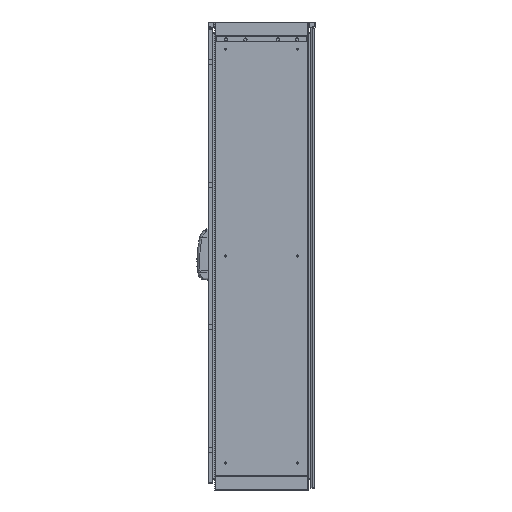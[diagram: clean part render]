
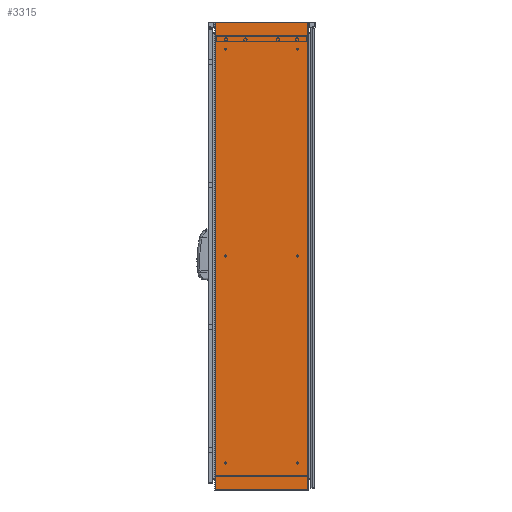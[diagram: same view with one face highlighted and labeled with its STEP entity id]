
A CAD part, left-side view. The second image highlights one B-rep face of the part: STEP entity #3315.
In plain terms, the highlighted planar face has unit normal (-1, 0, 0).
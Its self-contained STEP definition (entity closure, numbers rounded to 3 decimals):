
#493 = DIRECTION ( 'NONE',  ( 0., 0., -1. ) ) ;
#3315 = ADVANCED_FACE ( 'NONE', ( #32602 ), #75735, .F. ) ;
#3796 = VECTOR ( 'NONE', #71314, 1000. ) ;
#6209 = CARTESIAN_POINT ( 'NONE',  ( -600., -179.43, 1809. ) ) ;
#9545 = CARTESIAN_POINT ( 'NONE',  ( -600., 179.43, 0. ) ) ;
#15875 = CARTESIAN_POINT ( 'NONE',  ( -600., -179.43, 0. ) ) ;
#25381 = CARTESIAN_POINT ( 'NONE',  ( -600., 183.5, 1809. ) ) ;
#27467 = EDGE_CURVE ( 'NONE', #77279, #46404, #105290, .T. ) ;
#27480 = DIRECTION ( 'NONE',  ( 0., 0., -1. ) ) ;
#27914 = CARTESIAN_POINT ( 'NONE',  ( -600., 179.43, 1809. ) ) ;
#32546 = CARTESIAN_POINT ( 'NONE',  ( -600., -179.43, 1809. ) ) ;
#32602 = FACE_OUTER_BOUND ( 'NONE', #81695, .T. ) ;
#33678 = DIRECTION ( 'NONE',  ( 1., 0., 0. ) ) ;
#46404 = VERTEX_POINT ( 'NONE', #32546 ) ;
#47001 = VERTEX_POINT ( 'NONE', #9545 ) ;
#47861 = ORIENTED_EDGE ( 'NONE', *, *, #27467, .T. ) ;
#49675 = ORIENTED_EDGE ( 'NONE', *, *, #68697, .F. ) ;
#54602 = EDGE_CURVE ( 'NONE', #99938, #47001, #69526, .T. ) ;
#62445 = LINE ( 'NONE', #79065, #3796 ) ;
#64956 = VECTOR ( 'NONE', #98071, 1000. ) ;
#68697 = EDGE_CURVE ( 'NONE', #99938, #46404, #62445, .T. ) ;
#69526 = LINE ( 'NONE', #103293, #85072 ) ;
#70298 = EDGE_CURVE ( 'NONE', #47001, #77279, #104479, .T. ) ;
#71314 = DIRECTION ( 'NONE',  ( 0., -1., 0. ) ) ;
#74813 = VECTOR ( 'NONE', #79019, 1000. ) ;
#75735 = PLANE ( 'NONE',  #101003 ) ;
#77279 = VERTEX_POINT ( 'NONE', #15875 ) ;
#79019 = DIRECTION ( 'NONE',  ( 0., -1., 0. ) ) ;
#79065 = CARTESIAN_POINT ( 'NONE',  ( -600., 183.5, 1809. ) ) ;
#81695 = EDGE_LOOP ( 'NONE', ( #94602, #47861, #49675, #97899 ) ) ;
#85072 = VECTOR ( 'NONE', #27480, 1000. ) ;
#86758 = CARTESIAN_POINT ( 'NONE',  ( -600., 183.5, 0. ) ) ;
#94602 = ORIENTED_EDGE ( 'NONE', *, *, #70298, .T. ) ;
#97899 = ORIENTED_EDGE ( 'NONE', *, *, #54602, .T. ) ;
#98071 = DIRECTION ( 'NONE',  ( 0., 0., 1. ) ) ;
#99938 = VERTEX_POINT ( 'NONE', #27914 ) ;
#101003 = AXIS2_PLACEMENT_3D ( 'NONE', #25381, #33678, #493 ) ;
#103293 = CARTESIAN_POINT ( 'NONE',  ( -600., 179.43, 1809. ) ) ;
#104479 = LINE ( 'NONE', #86758, #74813 ) ;
#105290 = LINE ( 'NONE', #6209, #64956 ) ;
